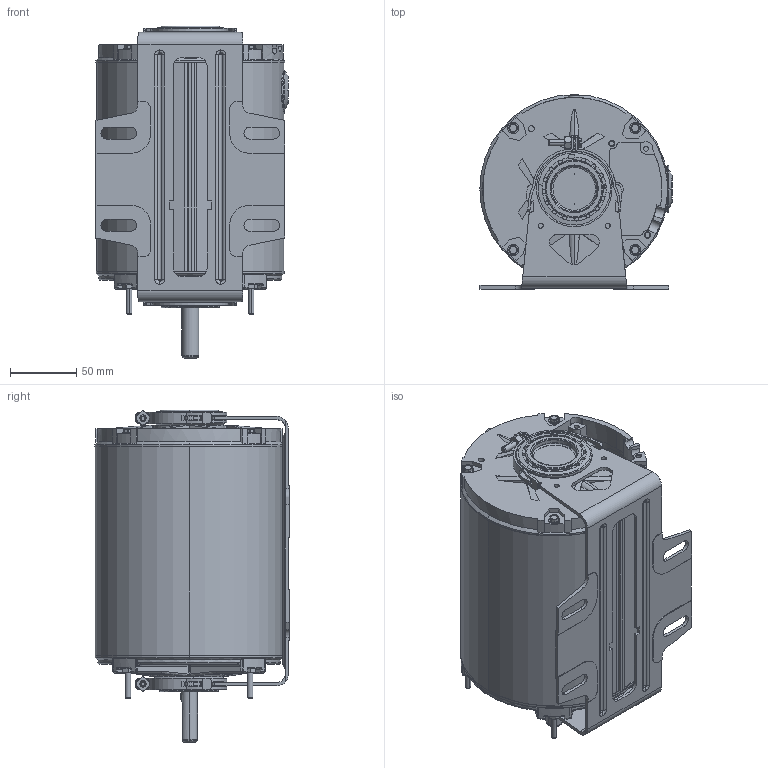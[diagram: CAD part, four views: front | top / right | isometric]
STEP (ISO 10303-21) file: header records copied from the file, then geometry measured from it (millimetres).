
FILE_DESCRIPTION (( 'STEP AP203' ), '1' );
FILE_NAME ('52A101954P4_Rev10.STEP', '2019-07-08T18:22:03', ( '' ), ( '' ), 'SwSTEP 2.0', 'SolidWorks 2015', '' );
FILE_SCHEMA (( 'CONFIG_CONTROL_DESIGN' ));
Length unit declared in the file: inch
Products named in the file (1): 52A101954P4_Rev10
Bounding box: 145.66 x 147.32 x 251.41 mm (x, y, z)
Volume: 443014 mm3; surface area: 351303.2 mm2
Topology: 26 solids, 26 shells, 2460 faces, 6502 edges, 4014 vertices
Faces by surface type: cylinder 985, plane 662, cone 297, torus 264, bspline 222, sphere 30
Entity records: 101218 total; most frequent: CARTESIAN_POINT 40969, ORIENTED_EDGE 12852, DIRECTION 12843, EDGE_CURVE 6426, AXIS2_PLACEMENT_3D 5187, VERTEX_POINT 4008, CIRCLE 2948, EDGE_LOOP 2596
